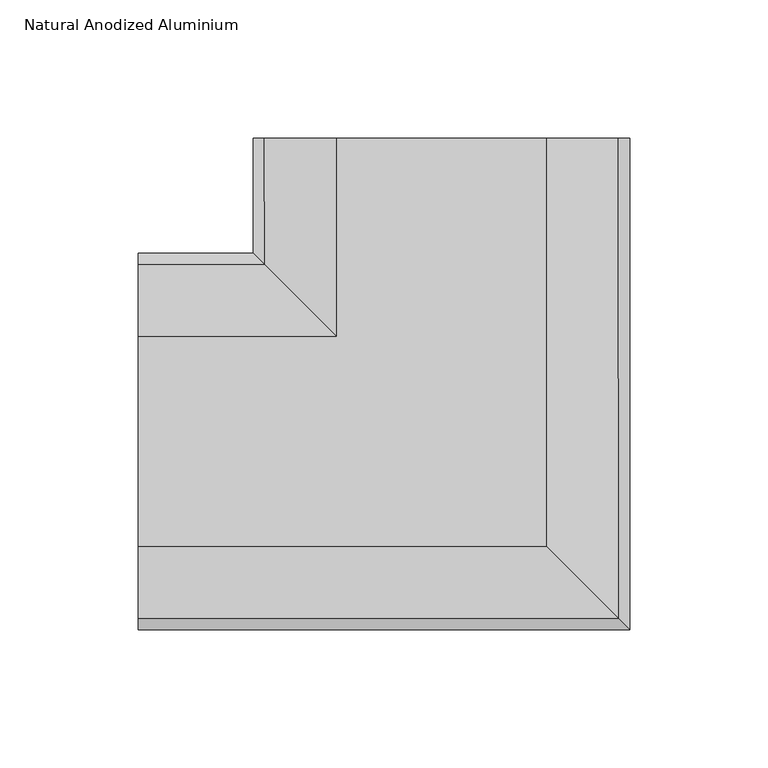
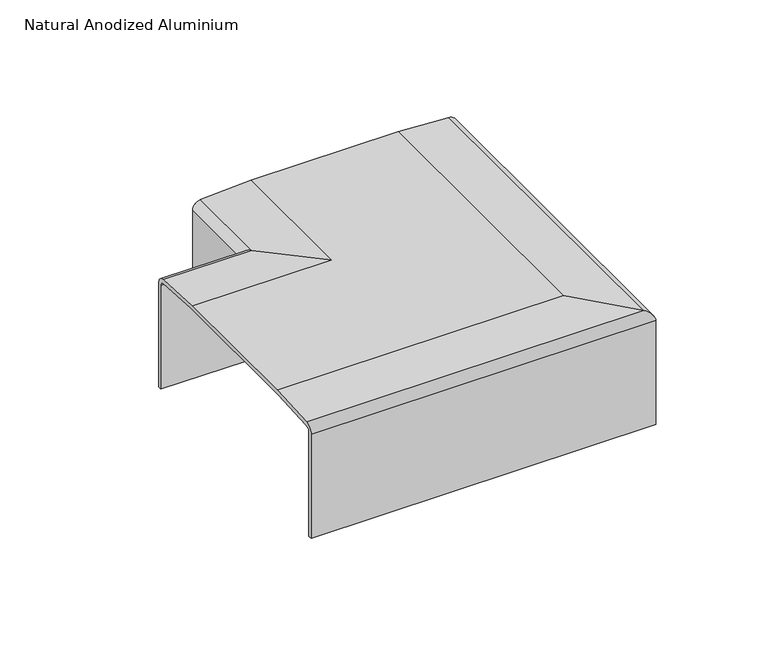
"""IFC4 building model written with IfcOpenShell, lengths in millimetres: cable carrier fitting geometry, Electrical_Installations_Hager_GBA-Flat-Corner-Vertical-Inside-And-Outside-Bend : Natural Anodized Aluminium."""

from ifc_helpers import new_model, si_unit, frame, origin, place, context, project, spatial, polyline, circle_curve, ellipse_curve, source, transform, mapped, element, save
from ifc_brep_helpers import plane_surface, cylinder_surface, revolved_surface, advanced_brep


def natural_anodized_aluminium_e169edea(model_context):
    return source(origin(), model_context, "Body", "AdvancedBrep", [
        advanced_brep(
        [(-109.5, -37.8381407, 34.8795859), (-109.5, 37.8381407, 34.8795859), (-109.5, 63.9122385, 33.3280659), (-109.5, 68.0, 28.9898348), (-109.5, 68.0, -27.5995611), (-109.5, 66.047897, -27.5995611), (-109.5, 66.047897, 28.9898348), (-109.5, 63.9081012, 31.3266677), (-109.5, 38.8292038, 32.8483359), (-109.5, -38.8292038, 32.8483359), (-109.5, -63.8439873, 31.3314381), (-109.5, -66.0387817, 28.9898348), (-109.5, -66.0387817, -27.70375), (-109.5, -68.0, -27.70375), (-109.5, -68.0, 28.9898348), (-109.5, -64.0359223, 33.3189335), (37.8381407, -37.8381407, 34.8795859), (37.8381407, 109.5, 34.8795859), (-37.8381407, 109.5, 34.8795859), (-37.8381407, 37.8381407, 34.8795859), (-63.9122385, 63.9122385, 33.3280659), (-68.0, 68.0, 28.9898348), (-68.0, 68.0, -27.5995611), (-68.0, 109.5, -27.5995611), (-66.047897, 109.5, -27.5995611), (-66.047897, 66.047897, -27.5995611), (-66.047897, 66.047897, 28.9898348), (-63.9081012, 63.9081012, 31.3266677), (-38.8292038, 38.8292038, 32.8483359), (-38.8292038, 109.5, 32.8483359), (38.8292038, 109.5, 32.8483359), (38.8292038, -38.8292038, 32.8483359), (63.8439873, -63.8439873, 31.3314381), (66.0387817, -66.0387817, 28.9898348), (66.0387817, -66.0387817, -27.70375), (66.0387817, 109.5, -27.70375), (68.0, 109.5, -27.70375), (68.0, -68.0, -27.70375), (68.0, -68.0, 28.9898348), (64.0359223, -64.0359223, 33.3189335), (63.9122385, 109.5, 33.3280659), (68.0, 109.5, 28.9898348), (66.0387817, 109.5, 28.9898348), (63.8989859, 109.5, 31.3266677), (-63.8439873, 109.5, 31.3314381), (-66.047897, 109.5, 28.9898348), (-68.0, 109.5, 28.9898348), (-64.0359223, 109.5, 33.3189335)],
        [
            (0, 1),
            (1, 2, circle_curve(frame((-109.5, 33.5459271, -257.1234178), z_axis=(-1.0, 0.0, 0.0), x_axis=(0.0, 0.0, -1.0)), 292.0345481)),
            (2, 3, circle_curve(frame((-109.5, 63.6540953, 28.9898348), z_axis=(-1.0, 0.0, 0.0), x_axis=(0.0, 0.0, -1.0)), 4.3459047)),
            (3, 4),
            (4, 5),
            (5, 6),
            (6, 7, circle_curve(frame((-109.5, 63.7019923, 28.9898348), z_axis=(1.0, 0.0, 0.0), x_axis=(0.0, 0.0, -1.0)), 2.3459047)),
            (7, 8, circle_curve(frame((-109.5, 34.3141248, -248.6234355), z_axis=(1.0, 0.0, 0.0), x_axis=(0.0, 0.0, -1.0)), 281.5079822)),
            (8, 9),
            (9, 10, circle_curve(frame((-109.5, -34.3141248, -248.6234355), z_axis=(1.0, 0.0, 0.0), x_axis=(0.0, 0.0, -1.0)), 281.5079822)),
            (10, 11, circle_curve(frame((-109.5, -63.692877, 28.9898348), z_axis=(1.0, 0.0, 0.0), x_axis=(0.0, 0.0, -1.0)), 2.3459047)),
            (11, 12),
            (12, 13),
            (13, 14),
            (14, 15, circle_curve(frame((-109.5, -63.6540953, 28.9898348), z_axis=(-1.0, 0.0, 0.0), x_axis=(0.0, 0.0, -1.0)), 4.3459047)),
            (15, 0, circle_curve(frame((-109.5, -33.5459271, -257.1234178), z_axis=(-1.0, 0.0, 0.0), x_axis=(0.0, 0.0, -1.0)), 292.0345481)),
            (0, 16),
            (16, 17),
            (17, 18),
            (18, 19),
            (19, 1),
            (19, 20, ellipse_curve(frame((-33.5459271, 33.5459271, -257.1234178), z_axis=(-0.7071067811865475, -0.7071067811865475, 0.0), x_axis=(-0.7071067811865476, 0.7071067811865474, 0.0)), 412.9992186, 292.0345481)),
            (20, 2),
            (20, 21, ellipse_curve(frame((-63.6540953, 63.6540953, 28.9898348), z_axis=(-0.7071067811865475, -0.7071067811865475, 0.0), x_axis=(-0.7071067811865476, 0.7071067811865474, 0.0)), 6.1460374, 4.3459047)),
            (21, 3),
            (21, 22),
            (22, 4),
            (22, 23),
            (23, 24),
            (24, 25),
            (25, 5),
            (25, 26),
            (26, 6),
            (26, 27, ellipse_curve(frame((-63.7019923, 63.7019923, 28.9898348), z_axis=(0.7071067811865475, 0.7071067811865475, 0.0), x_axis=(0.7071067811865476, -0.7071067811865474, 0.0)), 3.3176103, 2.3459047)),
            (27, 7),
            (27, 28, ellipse_curve(frame((-34.3141248, 34.3141248, -248.6234355), z_axis=(0.7071067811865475, 0.7071067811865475, 0.0), x_axis=(0.7071067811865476, -0.7071067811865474, 0.0)), 398.1124064, 281.5079822)),
            (28, 8),
            (28, 29),
            (29, 30),
            (30, 31),
            (31, 9),
            (31, 32, ellipse_curve(frame((34.3141248, -34.3141248, -248.6234355), z_axis=(0.7071067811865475, 0.7071067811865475, 0.0), x_axis=(0.7071067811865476, -0.7071067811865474, 0.0)), 398.1124064, 281.5079822)),
            (32, 10),
            (32, 33, ellipse_curve(frame((63.692877, -63.692877, 28.9898348), z_axis=(0.7071067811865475, 0.7071067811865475, 0.0), x_axis=(0.7071067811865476, -0.7071067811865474, 0.0)), 3.3176103, 2.3459047)),
            (33, 11),
            (33, 34),
            (34, 12),
            (34, 35),
            (35, 36),
            (36, 37),
            (37, 13),
            (37, 38),
            (38, 14),
            (38, 39, ellipse_curve(frame((63.6540953, -63.6540953, 28.9898348), z_axis=(-0.7071067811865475, -0.7071067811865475, 0.0), x_axis=(-0.7071067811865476, 0.7071067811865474, 0.0)), 6.1460374, 4.3459047)),
            (39, 15),
            (39, 16, ellipse_curve(frame((33.5459271, -33.5459271, -257.1234178), z_axis=(-0.7071067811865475, -0.7071067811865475, 0.0), x_axis=(-0.7071067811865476, 0.7071067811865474, 0.0)), 412.9992186, 292.0345481)),
            (17, 40, circle_curve(frame((33.5459271, 109.5, -257.1234178), z_axis=(0.0, 1.0, 0.0), x_axis=(0.0, 0.0, -1.0)), 292.0345481)),
            (40, 41, circle_curve(frame((63.6540953, 109.5, 28.9898348), z_axis=(0.0, 1.0, 0.0), x_axis=(0.0, 0.0, -1.0)), 4.3459047)),
            (41, 36),
            (35, 42),
            (42, 43, circle_curve(frame((63.692877, 109.5, 28.9898348), z_axis=(0.0, -1.0, 0.0), x_axis=(0.0, 0.0, -1.0)), 2.3459047)),
            (43, 30, circle_curve(frame((34.3141248, 109.5, -248.6234355), z_axis=(0.0, -1.0, 0.0), x_axis=(0.0, 0.0, -1.0)), 281.5079822)),
            (29, 44, circle_curve(frame((-34.3141248, 109.5, -248.6234355), z_axis=(0.0, -1.0, 0.0), x_axis=(0.0, 0.0, -1.0)), 281.5079822)),
            (44, 45, circle_curve(frame((-63.7019923, 109.5, 28.9898348), z_axis=(0.0, -1.0, 0.0), x_axis=(0.0, 0.0, -1.0)), 2.3459047)),
            (45, 24),
            (23, 46),
            (46, 47, circle_curve(frame((-63.6540953, 109.5, 28.9898348), z_axis=(0.0, 1.0, 0.0), x_axis=(0.0, 0.0, -1.0)), 4.3459047)),
            (47, 18, circle_curve(frame((-33.5459271, 109.5, -257.1234178), z_axis=(0.0, 1.0, 0.0), x_axis=(0.0, 0.0, -1.0)), 292.0345481)),
            (47, 20),
            (46, 21),
            (45, 26),
            (44, 27),
            (43, 32),
            (42, 33),
            (41, 38),
            (40, 39),
        ],
        [
            plane_surface(frame((-109.5, 0.0, 0.0), z_axis=(-1.0, 0.0, 0.0), x_axis=(0.0, 0.0, 1.0))),
            plane_surface(frame((-109.5, -37.8381407, 34.8795859), z_axis=(0.0, 0.0, 1.0), x_axis=(1.0, 0.0, 0.0))),
            cylinder_surface(frame((-109.5, 33.5459271, -257.1234178), z_axis=(-1.0, 0.0, 0.0), x_axis=(0.0, 0.0, -1.0)), 292.0345481),
            cylinder_surface(frame((-109.5, 63.6540953, 28.9898348), z_axis=(-1.0, 0.0, 0.0), x_axis=(0.0, 0.0, -1.0)), 4.3459047),
            plane_surface(frame((-109.5, 68.0, 28.9898348), z_axis=(0.0, 1.0, 0.0), x_axis=(1.0, 0.0, 0.0))),
            plane_surface(frame((-109.5, 68.0, -27.5995611), z_axis=(0.0, 0.0, -1.0), x_axis=(1.0, 0.0, 0.0))),
            plane_surface(frame((-109.5, 66.047897, -27.5995611), z_axis=(0.0, -1.0, 0.0), x_axis=(1.0, 0.0, 0.0))),
            revolved_surface(polyline([(-61.356087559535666, 63.7019923, 26.6439301), (-109.5, 63.7019923, 26.6439301)]), (-109.5, 63.7019923, 28.9898348), (1.0, 0.0, 0.0)),
            revolved_surface(polyline([(247.19385743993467, 34.3141248, -530.1314177), (-315.8221070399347, 34.3141248, -530.1314177)]), (-109.5, 34.3141248, -248.6234355), (1.0, 0.0, 0.0)),
            plane_surface(frame((-109.5, 38.8292038, 32.8483359), z_axis=(0.0, 0.0, -1.0), x_axis=(1.0, 0.0, 0.0))),
            revolved_surface(polyline([(315.8221070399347, -34.3141248, -530.1314177), (-247.19385743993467, -34.3141248, -530.1314177)]), (-109.5, -34.3141248, -248.6234355), (1.0, 0.0, 0.0)),
            revolved_surface(polyline([(66.03878174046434, -63.692877, 26.6439301), (-109.5, -63.692877, 26.6439301)]), (-109.5, -63.692877, 28.9898348), (1.0, 0.0, 0.0)),
            plane_surface(frame((-109.5, -66.0387817, 28.9898348), z_axis=(0.0, 1.0, 0.0), x_axis=(1.0, 0.0, 0.0))),
            plane_surface(frame((-109.5, -66.0387817, -27.70375), z_axis=(0.0, 0.0, -1.0), x_axis=(1.0, 0.0, 0.0))),
            plane_surface(frame((-109.5, -68.0, -27.70375), z_axis=(0.0, -1.0, 0.0), x_axis=(1.0, 0.0, 0.0))),
            cylinder_surface(frame((-109.5, -63.6540953, 28.9898348), z_axis=(-1.0, 0.0, 0.0), x_axis=(0.0, 0.0, -1.0)), 4.3459047),
            cylinder_surface(frame((-109.5, -33.5459271, -257.1234178), z_axis=(-1.0, 0.0, 0.0), x_axis=(0.0, 0.0, -1.0)), 292.0345481),
            plane_surface(frame((0.0, 109.5, 0.0), z_axis=(0.0, 1.0, 0.0), x_axis=(0.0, 0.0, 1.0))),
            cylinder_surface(frame((-33.5459271, 0.0, -257.1234178), z_axis=(0.0, -1.0, 0.0), x_axis=(0.0, 0.0, -1.0)), 292.0345481),
            cylinder_surface(frame((-63.6540953, 0.0, 28.9898348), z_axis=(0.0, -1.0, 0.0), x_axis=(0.0, 0.0, -1.0)), 4.3459047),
            plane_surface(frame((-68.0, 68.0, 28.9898348), z_axis=(-1.0, 0.0, 0.0), x_axis=(0.0, 1.0, 0.0))),
            plane_surface(frame((-66.047897, 66.047897, -27.5995611), z_axis=(1.0, 0.0, 0.0), x_axis=(0.0, 1.0, 0.0))),
            revolved_surface(polyline([(-63.7019923, 109.5, 26.6439301), (-63.7019923, 61.356087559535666, 26.6439301)]), (-63.7019923, 0.0, 28.9898348), (0.0, 1.0, 0.0)),
            revolved_surface(polyline([(-34.3141248, 315.8221070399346, -530.1314177), (-34.3141248, -247.19385743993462, -530.1314177)]), (-34.3141248, 0.0, -248.6234355), (0.0, 1.0, 0.0)),
            revolved_surface(polyline([(34.3141248, 247.19385743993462, -530.1314177), (34.3141248, -315.8221070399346, -530.1314177)]), (34.3141248, 0.0, -248.6234355), (0.0, 1.0, 0.0)),
            revolved_surface(polyline([(63.692877, 109.5, 26.6439301), (63.692877, -66.03878174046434, 26.6439301)]), (63.692877, 0.0, 28.9898348), (0.0, 1.0, 0.0)),
            plane_surface(frame((66.0387817, -66.0387817, 28.9898348), z_axis=(-1.0, 0.0, 0.0), x_axis=(0.0, 1.0, 0.0))),
            plane_surface(frame((68.0, -68.0, -27.70375), z_axis=(1.0, 0.0, 0.0), x_axis=(0.0, 1.0, 0.0))),
            cylinder_surface(frame((63.6540953, 0.0, 28.9898348), z_axis=(0.0, -1.0, 0.0), x_axis=(0.0, 0.0, -1.0)), 4.3459047),
            cylinder_surface(frame((33.5459271, 0.0, -257.1234178), z_axis=(0.0, -1.0, 0.0), x_axis=(0.0, 0.0, -1.0)), 292.0345481),
        ],
        [
            (0, [[1, 2, 3, 4, 5, 6, 7, 8, 9, 10, 11, 12, 13, 14, 15, 16]]),
            (1, [[-1, 17, 18, 19, 20, 21]]),
            (2, [[-2, -21, 22, 23]]),
            (3, [[-3, -23, 24, 25]]),
            (4, [[-4, -25, 26, 27]]),
            (5, [[-5, -27, 28, 29, 30, 31]]),
            (6, [[-6, -31, 32, 33]]),
            (7, [[-7, -33, 34, 35]]),
            (8, [[-8, -35, 36, 37]]),
            (9, [[-9, -37, 38, 39, 40, 41]]),
            (10, [[-10, -41, 42, 43]]),
            (11, [[-11, -43, 44, 45]]),
            (12, [[-12, -45, 46, 47]]),
            (13, [[-13, -47, 48, 49, 50, 51]]),
            (14, [[-14, -51, 52, 53]]),
            (15, [[-15, -53, 54, 55]]),
            (16, [[-16, -55, 56, -17]]),
            (17, [[57, 58, 59, -49, 60, 61, 62, -39, 63, 64, 65, -29, 66, 67, 68, -19]]),
            (18, [[-22, -20, -68, 69]]),
            (19, [[-24, -69, -67, 70]]),
            (20, [[-26, -70, -66, -28]]),
            (21, [[-32, -30, -65, 71]]),
            (22, [[-34, -71, -64, 72]]),
            (23, [[-36, -72, -63, -38]]),
            (24, [[-42, -40, -62, 73]]),
            (25, [[-44, -73, -61, 74]]),
            (26, [[-46, -74, -60, -48]]),
            (27, [[-52, -50, -59, 75]]),
            (28, [[-54, -75, -58, 76]]),
            (29, [[-56, -76, -57, -18]]),
        ],
    ),
    ])


if __name__ == "__main__":
    model = new_model("IFC4")
    model_context = context("Model", 3, world=origin())
    ifc_project = project(units=[si_unit("LENGTHUNIT", "METRE", prefix="MILLI")], contexts=[model_context])
    site = spatial("IfcSite", under=ifc_project)
    building = spatial("IfcBuilding", under=site)
    placement = place(None, origin())
    natural_anodized_aluminium_shape = natural_anodized_aluminium_e169edea(model_context)
    element("IfcCableCarrierFitting", 1, ObjectType="Electrical_Installations_Hager_GBA-Flat-Corner-Vertical-Inside-And-Outside-Bend : Natural Anodized Aluminium", at=placement, inside=building, context=model_context, shape_type="MappedRepresentation", body=[
        mapped(natural_anodized_aluminium_shape, transform((0.0, 0.0, 0.0), x_axis=(1.0, 0.0, 0.0), y_axis=(0.0, 1.0, 0.0), z_axis=(0.0, 0.0, 1.0))),
    ])
    save(model, "model.ifc")
